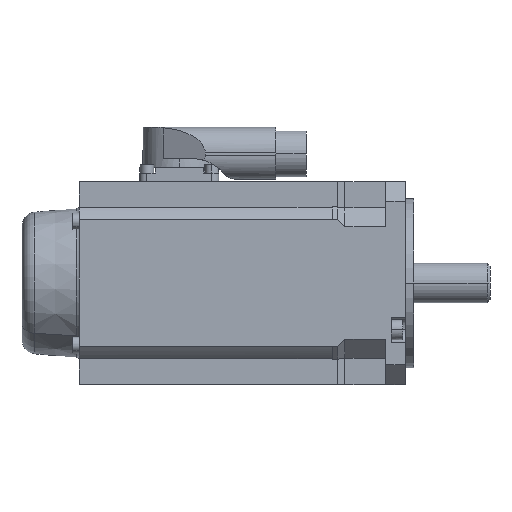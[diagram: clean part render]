
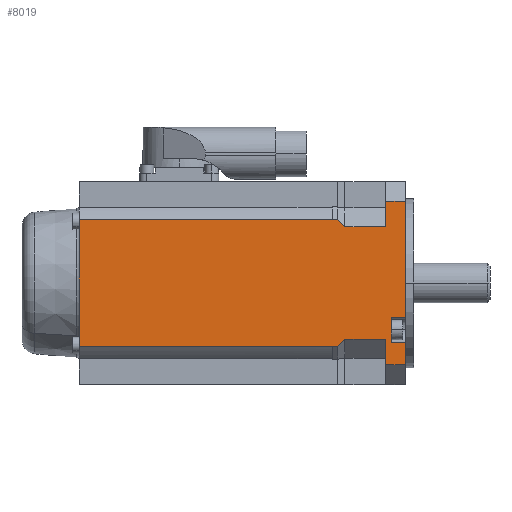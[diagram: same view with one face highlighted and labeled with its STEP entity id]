
A CAD part, left-side view. The second image highlights one B-rep face of the part: STEP entity #8019.
In plain terms, the highlighted planar face has unit normal (-1, 0, 0).
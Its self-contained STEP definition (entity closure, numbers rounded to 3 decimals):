
#274=DIRECTION('',(0.,0.,-1.));
#275=VECTOR('',#274,7.983);
#276=CARTESIAN_POINT('',(-36.,0.,-21.071));
#277=LINE('',#276,#275);
#311=DIRECTION('',(0.,0.,-1.));
#312=VECTOR('',#311,41.125);
#313=CARTESIAN_POINT('',(-36.,0.,29.054));
#314=LINE('',#313,#312);
#714=DIRECTION('',(0.,-1.,0.));
#715=VECTOR('',#714,7.);
#716=CARTESIAN_POINT('',(-36.,7.,29.054));
#717=LINE('',#716,#715);
#728=DIRECTION('',(0.,0.,1.));
#729=VECTOR('',#728,9.054);
#730=CARTESIAN_POINT('',(-36.,7.,20.));
#731=LINE('',#730,#729);
#765=DIRECTION('',(0.,-0.707,0.707));
#766=VECTOR('',#765,3.536);
#767=CARTESIAN_POINT('',(-36.,24.,-22.5));
#768=LINE('',#767,#766);
#772=DIRECTION('',(0.,0.707,0.707));
#773=VECTOR('',#772,3.536);
#774=CARTESIAN_POINT('',(-36.,21.5,20.));
#775=LINE('',#774,#773);
#779=DIRECTION('',(0.,0.,-1.));
#780=VECTOR('',#779,0.779);
#781=CARTESIAN_POINT('',(-36.,5.,-16.181));
#782=LINE('',#781,#780);
#786=DIRECTION('',(0.,1.,0.));
#787=VECTOR('',#786,7.);
#788=CARTESIAN_POINT('',(-36.,0.,-29.054));
#789=LINE('',#788,#787);
#821=DIRECTION('',(0.,0.,1.));
#822=VECTOR('',#821,9.054);
#823=CARTESIAN_POINT('',(-36.,7.,-29.054));
#824=LINE('',#823,#822);
#1164=DIRECTION('',(0.,0.,1.));
#1165=VECTOR('',#1164,45.);
#1166=CARTESIAN_POINT('',(-36.,115.7,-22.5));
#1167=LINE('',#1166,#1165);
#1438=DIRECTION('',(0.,-1.,0.));
#1439=VECTOR('',#1438,14.5);
#1440=CARTESIAN_POINT('',(-36.,21.5,20.));
#1441=LINE('',#1440,#1439);
#1459=DIRECTION('',(0.,-1.,0.));
#1460=VECTOR('',#1459,91.7);
#1461=CARTESIAN_POINT('',(-36.,115.7,22.5));
#1462=LINE('',#1461,#1460);
#1529=DIRECTION('',(0.,1.,0.));
#1530=VECTOR('',#1529,91.7);
#1531=CARTESIAN_POINT('',(-36.,24.,-22.5));
#1532=LINE('',#1531,#1530);
#1564=DIRECTION('',(0.,1.,0.));
#1565=VECTOR('',#1564,14.5);
#1566=CARTESIAN_POINT('',(-36.,7.,-20.));
#1567=LINE('',#1566,#1565);
#2955=DIRECTION('',(0.,1.,0.));
#2956=VECTOR('',#2955,5.);
#2957=CARTESIAN_POINT('',(-36.,0.,-12.071));
#2958=LINE('',#2957,#2956);
#2984=DIRECTION('',(0.,0.,-1.));
#2985=VECTOR('',#2984,4.111);
#2986=CARTESIAN_POINT('',(-36.,5.,-16.96));
#2987=LINE('',#2986,#2985);
#3007=DIRECTION('',(0.,0.,-1.));
#3008=VECTOR('',#3007,4.111);
#3009=CARTESIAN_POINT('',(-36.,5.,-12.071));
#3010=LINE('',#3009,#3008);
#3036=DIRECTION('',(0.,-1.,0.));
#3037=VECTOR('',#3036,5.);
#3038=CARTESIAN_POINT('',(-36.,5.,-21.071));
#3039=LINE('',#3038,#3037);
#7002=CARTESIAN_POINT('',(-36.,115.7,-22.5));
#7003=VERTEX_POINT('',#7002);
#7004=CARTESIAN_POINT('',(-36.,115.7,22.5));
#7005=VERTEX_POINT('',#7004);
#7082=CARTESIAN_POINT('',(-36.,5.,-16.181));
#7083=VERTEX_POINT('',#7082);
#7200=CARTESIAN_POINT('',(-36.,5.,-16.96));
#7201=VERTEX_POINT('',#7200);
#7332=CARTESIAN_POINT('',(-36.,5.,-21.071));
#7333=VERTEX_POINT('',#7332);
#7334=CARTESIAN_POINT('',(-36.,0.,-21.071));
#7335=VERTEX_POINT('',#7334);
#7336=CARTESIAN_POINT('',(-36.,5.,-12.071));
#7337=VERTEX_POINT('',#7336);
#7338=CARTESIAN_POINT('',(-36.,0.,-12.071));
#7339=VERTEX_POINT('',#7338);
#7340=CARTESIAN_POINT('',(-36.,7.,29.054));
#7342=VERTEX_POINT('',#7340);
#7344=CARTESIAN_POINT('',(-36.,0.,29.054));
#7345=VERTEX_POINT('',#7344);
#7348=CARTESIAN_POINT('',(-36.,7.,20.));
#7349=VERTEX_POINT('',#7348);
#7350=CARTESIAN_POINT('',(-36.,21.5,20.));
#7351=VERTEX_POINT('',#7350);
#7352=CARTESIAN_POINT('',(-36.,24.,-22.5));
#7353=VERTEX_POINT('',#7352);
#7354=CARTESIAN_POINT('',(-36.,21.5,-20.));
#7355=VERTEX_POINT('',#7354);
#7356=CARTESIAN_POINT('',(-36.,7.,-20.));
#7357=VERTEX_POINT('',#7356);
#7359=CARTESIAN_POINT('',(-36.,7.,-29.054));
#7361=VERTEX_POINT('',#7359);
#7364=CARTESIAN_POINT('',(-36.,0.,-29.054));
#7365=VERTEX_POINT('',#7364);
#7366=CARTESIAN_POINT('',(-36.,24.,22.5));
#7368=VERTEX_POINT('',#7366);
#7980=CARTESIAN_POINT('',(-36.,7.,29.054));
#7981=DIRECTION('',(-1.,0.,0.));
#7982=DIRECTION('',(0.,-1.,0.));
#7983=AXIS2_PLACEMENT_3D('',#7980,#7981,#7982);
#7984=PLANE('',#7983);
#7986=ORIENTED_EDGE('',*,*,#7985,.T.);
#7988=ORIENTED_EDGE('',*,*,#7987,.T.);
#7990=ORIENTED_EDGE('',*,*,#7989,.T.);
#7992=ORIENTED_EDGE('',*,*,#7991,.F.);
#7994=ORIENTED_EDGE('',*,*,#7993,.T.);
#7996=ORIENTED_EDGE('',*,*,#7995,.T.);
#7998=ORIENTED_EDGE('',*,*,#7997,.T.);
#8000=ORIENTED_EDGE('',*,*,#7999,.F.);
#8002=ORIENTED_EDGE('',*,*,#8001,.T.);
#8003=ORIENTED_EDGE('',*,*,#7955,.T.);
#8004=ORIENTED_EDGE('',*,*,#7937,.T.);
#8005=ORIENTED_EDGE('',*,*,#7683,.T.);
#8007=ORIENTED_EDGE('',*,*,#8006,.T.);
#8009=ORIENTED_EDGE('',*,*,#8008,.T.);
#8011=ORIENTED_EDGE('',*,*,#8010,.T.);
#8013=ORIENTED_EDGE('',*,*,#8012,.T.);
#8015=ORIENTED_EDGE('',*,*,#8014,.T.);
#8016=ORIENTED_EDGE('',*,*,#7673,.T.);
#8017=EDGE_LOOP('',(#7986,#7988,#7990,#7992,#7994,#7996,#7998,#8000,#8002,#8003,
#8004,#8005,#8007,#8009,#8011,#8013,#8015,#8016));
#8018=FACE_OUTER_BOUND('',#8017,.F.);
#7673=EDGE_CURVE('',#7335,#7365,#277,.T.);
#7683=EDGE_CURVE('',#7345,#7339,#314,.T.);
#7937=EDGE_CURVE('',#7342,#7345,#717,.T.);
#7955=EDGE_CURVE('',#7349,#7342,#731,.T.);
#7985=EDGE_CURVE('',#7365,#7361,#789,.T.);
#7987=EDGE_CURVE('',#7361,#7357,#824,.T.);
#7989=EDGE_CURVE('',#7357,#7355,#1567,.T.);
#7991=EDGE_CURVE('',#7353,#7355,#768,.T.);
#7993=EDGE_CURVE('',#7353,#7003,#1532,.T.);
#7995=EDGE_CURVE('',#7003,#7005,#1167,.T.);
#7997=EDGE_CURVE('',#7005,#7368,#1462,.T.);
#7999=EDGE_CURVE('',#7351,#7368,#775,.T.);
#8001=EDGE_CURVE('',#7351,#7349,#1441,.T.);
#8006=EDGE_CURVE('',#7339,#7337,#2958,.T.);
#8008=EDGE_CURVE('',#7337,#7083,#3010,.T.);
#8010=EDGE_CURVE('',#7083,#7201,#782,.T.);
#8012=EDGE_CURVE('',#7201,#7333,#2987,.T.);
#8014=EDGE_CURVE('',#7333,#7335,#3039,.T.);
#8019=ADVANCED_FACE('',(#8018),#7984,.T.);
